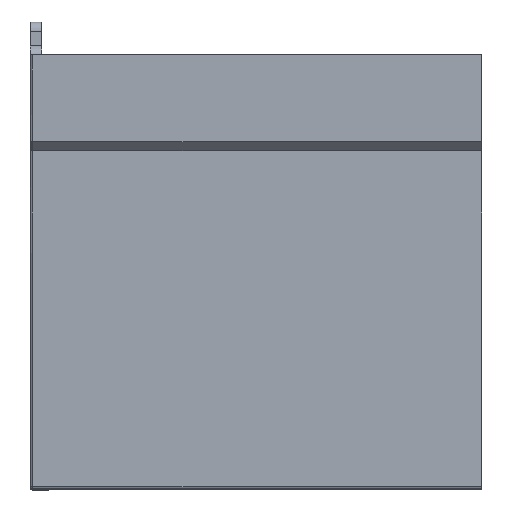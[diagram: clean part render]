
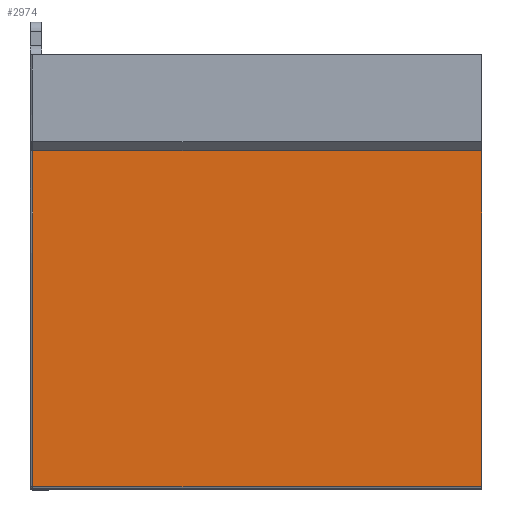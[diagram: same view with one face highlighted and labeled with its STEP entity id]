
A CAD part, top view. The second image highlights one B-rep face of the part: STEP entity #2974.
In plain terms, the highlighted planar face has unit normal (0, 0, 1) as drawn and (1, 0, 0) by its records, which use the part's own axes.
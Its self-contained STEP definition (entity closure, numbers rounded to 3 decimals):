
#595 = CARTESIAN_POINT ( 'NONE',  ( -2., 98.2, 94.45 ) ) ;
#700 = EDGE_CURVE ( 'NONE', #4172, #45479, #9162, .T. ) ;
#2859 = CARTESIAN_POINT ( 'NONE',  ( -2., 0., 21. ) ) ;
#2974 = ADVANCED_FACE ( 'NONE', ( #28433 ), #21516, .T. ) ;
#4008 = CARTESIAN_POINT ( 'NONE',  ( -2., 98.2, 21. ) ) ;
#4172 = VERTEX_POINT ( 'NONE', #2859 ) ;
#5119 = CARTESIAN_POINT ( 'NONE',  ( -2., 98.2, 94.45 ) ) ;
#6275 = VECTOR ( 'NONE', #22251, 1000. ) ;
#6783 = DIRECTION ( 'NONE',  ( 0., 0., 1. ) ) ;
#9162 = LINE ( 'NONE', #41747, #15154 ) ;
#9283 = EDGE_CURVE ( 'NONE', #33122, #31700, #25934, .T. ) ;
#9974 = DIRECTION ( 'NONE',  ( 1., 0., 0. ) ) ;
#13282 = ORIENTED_EDGE ( 'NONE', *, *, #27609, .F. ) ;
#13369 = LINE ( 'NONE', #41330, #39306 ) ;
#13628 = ORIENTED_EDGE ( 'NONE', *, *, #17655, .T. ) ;
#15154 = VECTOR ( 'NONE', #41057, 1000. ) ;
#17372 = DIRECTION ( 'NONE',  ( 0., 1., 0. ) ) ;
#17655 = EDGE_CURVE ( 'NONE', #45479, #33122, #13369, .T. ) ;
#20683 = LINE ( 'NONE', #35682, #21466 ) ;
#21466 = VECTOR ( 'NONE', #6783, 1000. ) ;
#21516 = PLANE ( 'NONE',  #28860 ) ;
#22251 = DIRECTION ( 'NONE',  ( 0., -1., 0. ) ) ;
#25934 = LINE ( 'NONE', #5119, #6275 ) ;
#27609 = EDGE_CURVE ( 'NONE', #4172, #31700, #20683, .T. ) ;
#28433 = FACE_OUTER_BOUND ( 'NONE', #44261, .T. ) ;
#28860 = AXIS2_PLACEMENT_3D ( 'NONE', #32130, #9974, #17372 ) ;
#31700 = VERTEX_POINT ( 'NONE', #37831 ) ;
#32130 = CARTESIAN_POINT ( 'NONE',  ( -2., 0., 10.95 ) ) ;
#33122 = VERTEX_POINT ( 'NONE', #595 ) ;
#35682 = CARTESIAN_POINT ( 'NONE',  ( -2., 0., 21. ) ) ;
#37831 = CARTESIAN_POINT ( 'NONE',  ( -2., 0., 94.45 ) ) ;
#38535 = DIRECTION ( 'NONE',  ( 0., 0., 1. ) ) ;
#39306 = VECTOR ( 'NONE', #38535, 1000. ) ;
#40367 = ORIENTED_EDGE ( 'NONE', *, *, #9283, .T. ) ;
#41057 = DIRECTION ( 'NONE',  ( 0., 1., 0. ) ) ;
#41330 = CARTESIAN_POINT ( 'NONE',  ( -2., 98.2, 21. ) ) ;
#41609 = ORIENTED_EDGE ( 'NONE', *, *, #700, .T. ) ;
#41747 = CARTESIAN_POINT ( 'NONE',  ( -2., 0., 21. ) ) ;
#44261 = EDGE_LOOP ( 'NONE', ( #40367, #13282, #41609, #13628 ) ) ;
#45479 = VERTEX_POINT ( 'NONE', #4008 ) ;
